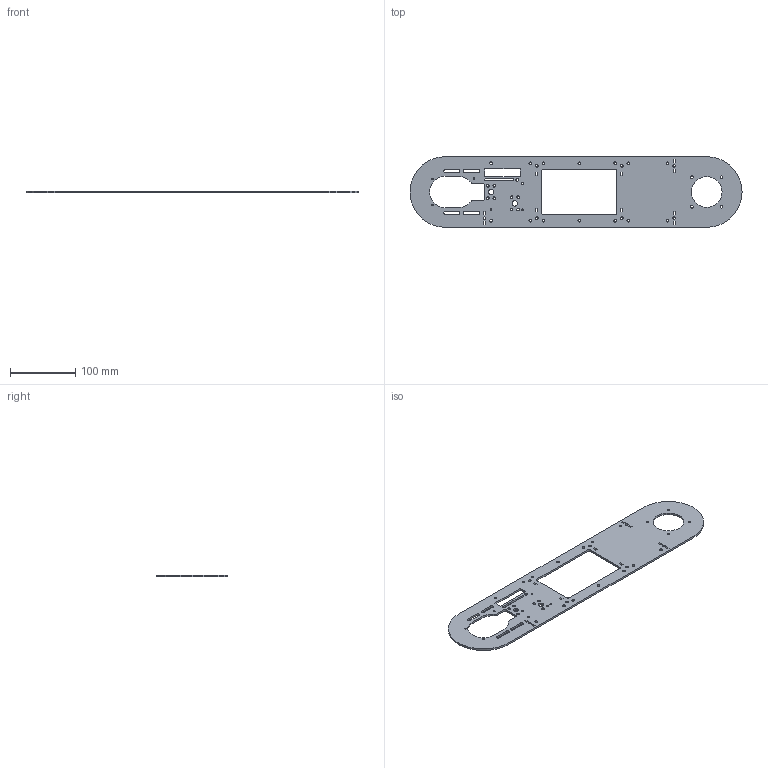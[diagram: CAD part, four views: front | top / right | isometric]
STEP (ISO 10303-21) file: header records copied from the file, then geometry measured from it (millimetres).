
FILE_DESCRIPTION(/* description */ ('Unknown'),/* implementation_level */ '2;1');
FILE_NAME(/* name */ 'PSM01',/* time_stamp */ '2025-10-07T10:36:44+02:00',/* author */ ('Unknown'),/* organization */ ('Unknown'),/* preprocessor_version */ 'ST-DEVELOPER v19.4',/* originating_system */ 'Solid Edge',/* authorisation */ 'Unknown');
FILE_SCHEMA (('AUTOMOTIVE_DESIGN {1 0 10303 214 3 1 1}'));
Length unit declared in the file: millimetre
Products named in the file (1): PSM01
Bounding box: 508 x 108 x 3 mm (x, y, z)
Volume: 112172.3 mm3; surface area: 83819.8 mm2
Topology: 1 solids, 1 shells, 133 faces, 393 edges, 262 vertices
Faces by surface type: plane 67, cylinder 66
Full cylindrical faces by diameter (mm): 2.5 x6, 4 x34, 8 x2, 47 x1
Entity records: 4538 total; most frequent: DIRECTION 750, CARTESIAN_POINT 746, ORIENTED_EDGE 700, EDGE_CURVE 350, EDGE_LOOP 298, FACE_BOUND 298, AXIS2_PLACEMENT_3D 266, VERTEX_POINT 262
